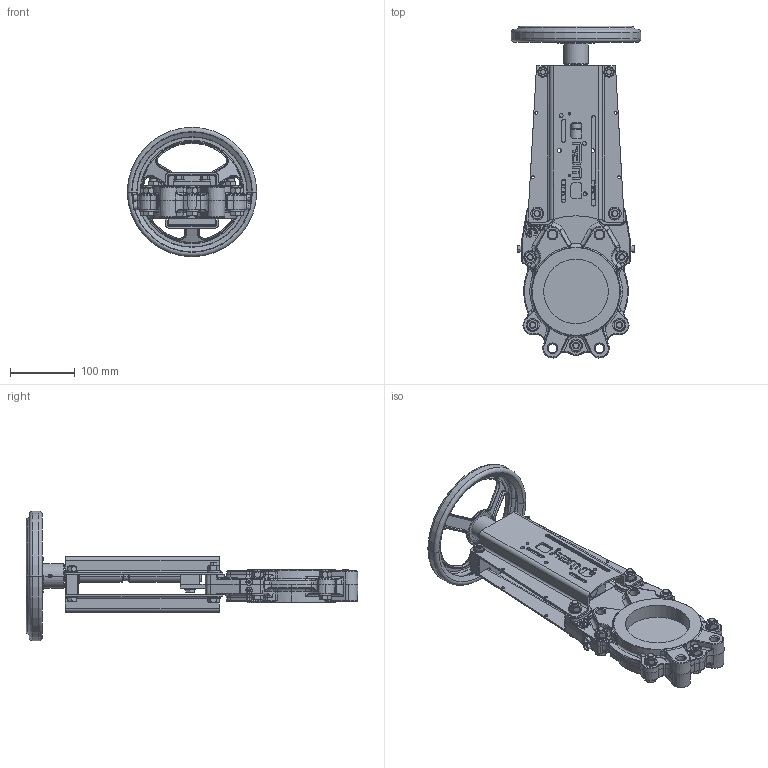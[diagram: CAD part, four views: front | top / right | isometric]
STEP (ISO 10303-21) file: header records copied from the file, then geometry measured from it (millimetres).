
FILE_DESCRIPTION (( 'STEP AP214' ), '1' );
FILE_NAME ('VSA DN 0100.STEP', '2015-09-23T10:54:43', ( 'admin' ), ( 'Hewlett-Packard Company' ), 'SwSTEP 2.0', 'SolidWorks 2013', '' );
FILE_SCHEMA (( 'AUTOMOTIVE_DESIGN' ));
Length unit declared in the file: millimetre
Products named in the file (1): VSA DN 0100
Bounding box: 200 x 513.46 x 200 mm (x, y, z)
Volume: 1636088 mm3; surface area: 483539.3 mm2
Topology: 52 solids, 55 shells, 2452 faces, 5946 edges, 3588 vertices
Faces by surface type: plane 878, cylinder 704, cone 407, bspline 270, torus 189, sphere 4
Entity records: 111093 total; most frequent: CARTESIAN_POINT 27824, ORIENTED_EDGE 11768, DIRECTION 11489, EDGE_CURVE 5884, AXIS2_PLACEMENT_3D 4507, VERTEX_POINT 3588, EDGE_LOOP 2694, UNCERTAINTY_MEASURE_WITH_UNIT 2506
